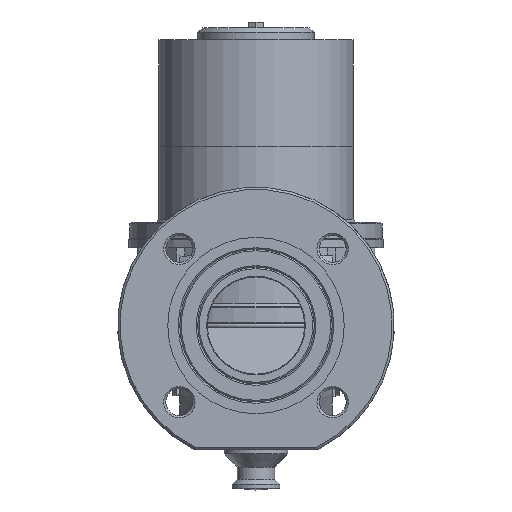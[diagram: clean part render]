
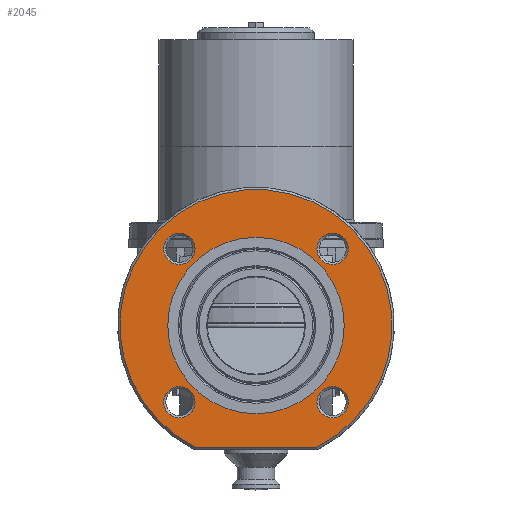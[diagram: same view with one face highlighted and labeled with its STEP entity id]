
A CAD part, front view. The second image highlights one B-rep face of the part: STEP entity #2045.
In plain terms, the highlighted planar face has unit normal (0, -1, 0).
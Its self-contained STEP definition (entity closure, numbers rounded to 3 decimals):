
#2045 = ADVANCED_FACE( '', ( #2944, #2945, #2946, #2947, #2948, #2949 ), #2950, .T. );
#2944 = FACE_BOUND( '', #4423, .T. );
#2945 = FACE_BOUND( '', #4424, .T. );
#2946 = FACE_BOUND( '', #4425, .T. );
#2947 = FACE_BOUND( '', #4426, .T. );
#2948 = FACE_OUTER_BOUND( '', #4427, .T. );
#2949 = FACE_BOUND( '', #4428, .T. );
#2950 = PLANE( '', #4429 );
#4423 = EDGE_LOOP( '', ( #7756 ) );
#4424 = EDGE_LOOP( '', ( #7757 ) );
#4425 = EDGE_LOOP( '', ( #7758 ) );
#4426 = EDGE_LOOP( '', ( #7759 ) );
#4427 = EDGE_LOOP( '', ( #7760, #7761 ) );
#4428 = EDGE_LOOP( '', ( #7762 ) );
#4429 = AXIS2_PLACEMENT_3D( '', #7763, #7764, #7765 );
#7756 = ORIENTED_EDGE( '', *, *, #10051, .T. );
#7757 = ORIENTED_EDGE( '', *, *, #10052, .T. );
#7758 = ORIENTED_EDGE( '', *, *, #10053, .T. );
#7759 = ORIENTED_EDGE( '', *, *, #10054, .T. );
#7760 = ORIENTED_EDGE( '', *, *, #9956, .T. );
#7761 = ORIENTED_EDGE( '', *, *, #9958, .T. );
#7762 = ORIENTED_EDGE( '', *, *, #9967, .F. );
#7763 = CARTESIAN_POINT( '', ( 0., -133., 59. ) );
#7764 = DIRECTION( '', ( 0., -1., 0. ) );
#7765 = DIRECTION( '', ( 0., 0., -1. ) );
#9956 = EDGE_CURVE( '', #11057, #11055, #11058, .T. );
#9958 = EDGE_CURVE( '', #11055, #11057, #11060, .T. );
#9967 = EDGE_CURVE( '', #11077, #11077, #11078, .T. );
#10051 = EDGE_CURVE( '', #11204, #11204, #11205, .F. );
#10052 = EDGE_CURVE( '', #11206, #11206, #11207, .F. );
#10053 = EDGE_CURVE( '', #11208, #11208, #11209, .F. );
#10054 = EDGE_CURVE( '', #11210, #11210, #11211, .F. );
#11055 = VERTEX_POINT( '', #13280 );
#11057 = VERTEX_POINT( '', #13285 );
#11058 = CIRCLE( '', #13286, 91. );
#11060 = LINE( '', #13291, #13292 );
#11077 = VERTEX_POINT( '', #13309 );
#11078 = CIRCLE( '', #13310, 59. );
#11204 = VERTEX_POINT( '', #13624 );
#11205 = CIRCLE( '', #13625, 10.5 );
#11206 = VERTEX_POINT( '', #13626 );
#11207 = CIRCLE( '', #13627, 10.5 );
#11208 = VERTEX_POINT( '', #13628 );
#11209 = CIRCLE( '', #13629, 10.5 );
#11210 = VERTEX_POINT( '', #13630 );
#11211 = CIRCLE( '', #13631, 10.5 );
#13280 = CARTESIAN_POINT( '', ( -40.481, -133., -81.5 ) );
#13285 = CARTESIAN_POINT( '', ( 40.481, -133., -81.5 ) );
#13286 = AXIS2_PLACEMENT_3D( '', #15822, #15823, #15824 );
#13291 = CARTESIAN_POINT( '', ( 0., -133., -81.5 ) );
#13292 = VECTOR( '', #15825, 1000. );
#13309 = CARTESIAN_POINT( '', ( 0., -133., -59. ) );
#13310 = AXIS2_PLACEMENT_3D( '', #15850, #15851, #15852 );
#13624 = CARTESIAN_POINT( '', ( -51.265, -133., -61.765 ) );
#13625 = AXIS2_PLACEMENT_3D( '', #16012, #16013, #16014 );
#13626 = CARTESIAN_POINT( '', ( 51.265, -133., -61.765 ) );
#13627 = AXIS2_PLACEMENT_3D( '', #16015, #16016, #16017 );
#13628 = CARTESIAN_POINT( '', ( 51.265, -133., 40.765 ) );
#13629 = AXIS2_PLACEMENT_3D( '', #16018, #16019, #16020 );
#13630 = CARTESIAN_POINT( '', ( -51.265, -133., 40.765 ) );
#13631 = AXIS2_PLACEMENT_3D( '', #16021, #16022, #16023 );
#15822 = CARTESIAN_POINT( '', ( 0., -133., 0. ) );
#15823 = DIRECTION( '', ( 0., -1., 0. ) );
#15824 = DIRECTION( '', ( 0., 0., -1. ) );
#15825 = DIRECTION( '', ( 1., 0., 0. ) );
#15850 = CARTESIAN_POINT( '', ( 0., -133., 0. ) );
#15851 = DIRECTION( '', ( 0., -1., 0. ) );
#15852 = DIRECTION( '', ( 0., 0., -1. ) );
#16012 = CARTESIAN_POINT( '', ( -51.265, -133., -51.265 ) );
#16013 = DIRECTION( '', ( 0., -1., 0. ) );
#16014 = DIRECTION( '', ( 0., 0., -1. ) );
#16015 = CARTESIAN_POINT( '', ( 51.265, -133., -51.265 ) );
#16016 = DIRECTION( '', ( 0., -1., 0. ) );
#16017 = DIRECTION( '', ( 0., 0., -1. ) );
#16018 = CARTESIAN_POINT( '', ( 51.265, -133., 51.265 ) );
#16019 = DIRECTION( '', ( 0., -1., 0. ) );
#16020 = DIRECTION( '', ( 0., 0., -1. ) );
#16021 = CARTESIAN_POINT( '', ( -51.265, -133., 51.265 ) );
#16022 = DIRECTION( '', ( 0., -1., 0. ) );
#16023 = DIRECTION( '', ( 0., 0., -1. ) );
